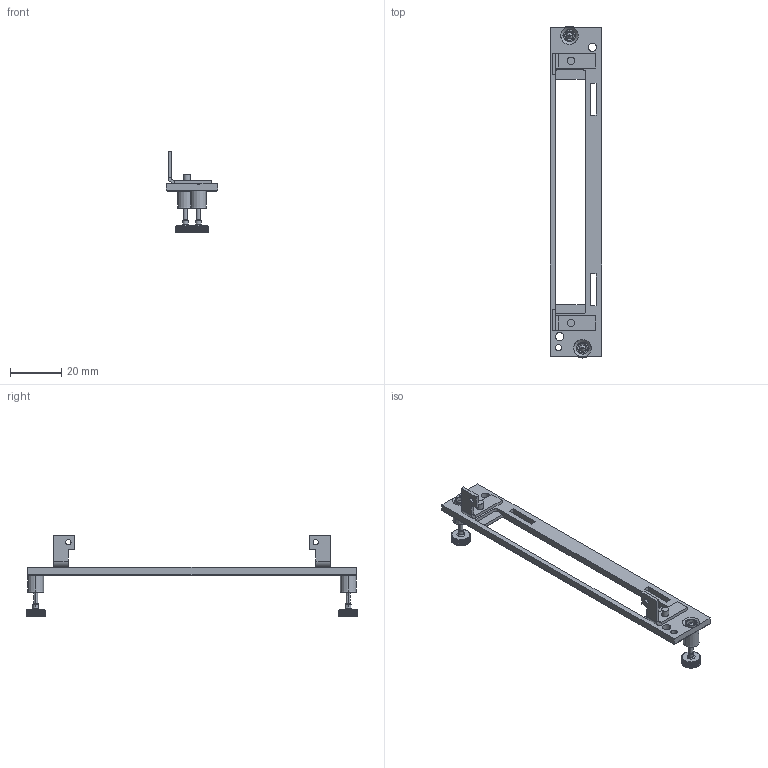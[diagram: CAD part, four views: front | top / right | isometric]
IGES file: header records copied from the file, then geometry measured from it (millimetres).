
Start section:  PTC IGES file: cd_pxie-4300.igs
Global section: file name: cd_pxie-4300.igs; native system: Pro/ENGINEER by Parametric Technology Corporation; preprocessor: 2006080; author: scarrasc; organization: Unknown; date: 100412.142844; units: inch
Bounding box: 20.02 x 130.05 x 32.12 mm (x, y, z)
Surface area: 6501 mm2 (no closed solid volume)
Topology: 0 solids, 0 shells, 622 faces, 3320 edges, 3316 vertices
Faces by surface type: bspline 402, extrusion 130, revolution 90
